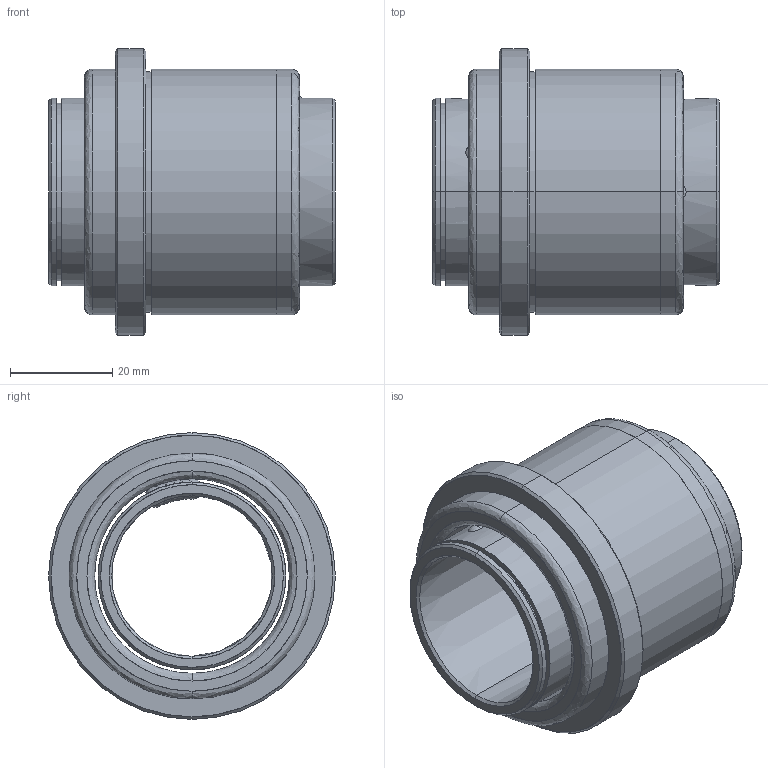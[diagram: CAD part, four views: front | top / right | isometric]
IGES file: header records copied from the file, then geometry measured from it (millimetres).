
Start section: START RECORD GO HERE.
Global section: file name: 732-30.igs; native system: DASSAULT SYSTEMES CATIA V5 R20 - www.3ds.com; preprocessor: CATIA Version 5 Release 20 ; author: Utente; organization: NB04-ASUS; date: 20210110.202648; units: millimetre
Bounding box: 56 x 56 x 56 mm (x, y, z)
Surface area: 26492.1 mm2 (no closed solid volume)
Topology: 0 solids, 0 shells, 74 faces, 438 edges, 438 vertices
Faces by surface type: revolution 64, plane 10
